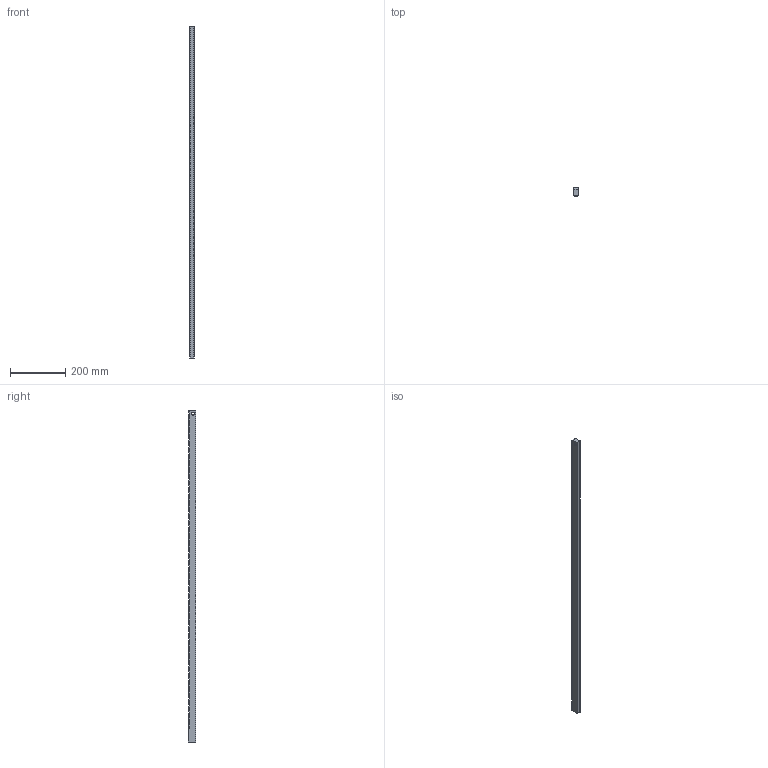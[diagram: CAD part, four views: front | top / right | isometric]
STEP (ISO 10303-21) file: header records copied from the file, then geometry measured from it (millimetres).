
FILE_DESCRIPTION (( 'STEP AP203' ), '1' );
FILE_NAME ('ZSZ 20.4210_61404.2597.10_STEP_20150226.STEP', '2015-02-26T10:19:40', ( '' ), ( '' ), 'SwSTEP 2.0', 'SolidWorks 2013', '' );
FILE_SCHEMA (( 'CONFIG_CONTROL_DESIGN' ));
Length unit declared in the file: millimetre
Products named in the file (1): ZSZ 20.4210_61404.2597.10_STEP_20150226
Bounding box: 15 x 28 x 1200 mm (x, y, z)
Volume: 459683.3 mm3; surface area: 113495.2 mm2
Topology: 1 solids, 1 shells, 1114 faces, 3336 edges, 2224 vertices
Faces by surface type: plane 742, cylinder 372
Entity records: 36813 total; most frequent: CARTESIAN_POINT 8877, ORIENTED_EDGE 6672, DIRECTION 4844, EDGE_CURVE 3336, VECTOR 2590, LINE 2590, VERTEX_POINT 2224, AXIS2_PLACEMENT_3D 1127
